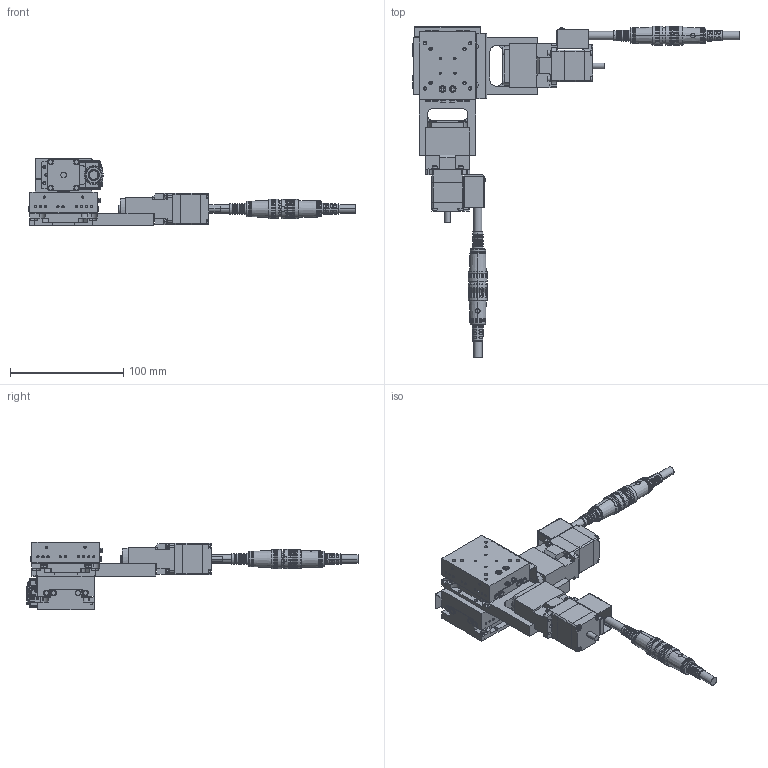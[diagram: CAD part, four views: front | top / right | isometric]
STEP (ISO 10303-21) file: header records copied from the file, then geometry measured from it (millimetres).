
FILE_DESCRIPTION (( 'STEP AP214' ), '1' );
FILE_NAME ('SYA0530-R01.STEP', '2021-05-20T07:59:57', ( '' ), ( '' ), 'SwSTEP 2.0', 'SolidWorks 2018', '' );
FILE_SCHEMA (( 'AUTOMOTIVE_DESIGN' ));
Length unit declared in the file: millimetre
Products named in the file (8): SYA0530-R01; second table; second table-Part-1; base; base-Part-2; base-Part-1; second table-Part-2; table
Assembly tree (7 placements, depth 3):
  SYA0530-R01
    base
      base-Part-1
      base-Part-2
    second table
      second table-Part-1
      second table-Part-2
    table
Bounding box: 289.6 x 293.65 x 60 mm (x, y, z)
Volume: 358206.6 mm3; surface area: 103595.5 mm2
Topology: 5 solids, 7 shells, 2762 faces, 6846 edges, 4264 vertices
Faces by surface type: plane 1462, cylinder 768, cone 404, torus 96, sphere 32
Entity records: 82826 total; most frequent: CARTESIAN_POINT 15740, DIRECTION 14664, ORIENTED_EDGE 13452, EDGE_CURVE 6726, AXIS2_PLACEMENT_3D 5344, VERTEX_POINT 4244, LINE 3976, VECTOR 3976
